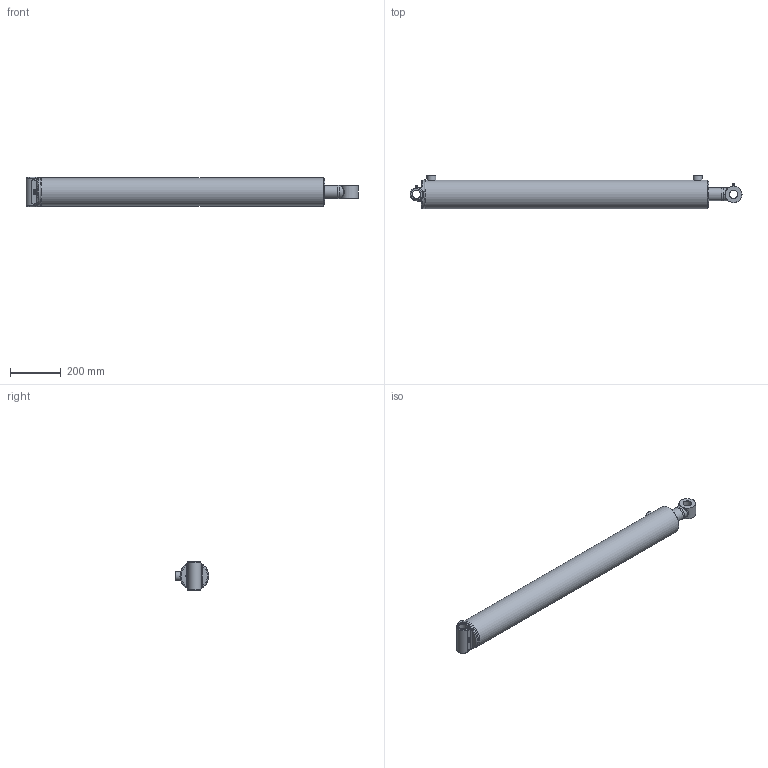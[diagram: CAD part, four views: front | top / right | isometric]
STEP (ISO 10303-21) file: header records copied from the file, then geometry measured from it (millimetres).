
FILE_DESCRIPTION(/* description */ ('Ø4.00 X 40.00 DA'),/* implementation_level */ '2;1');
FILE_NAME(/* name */ 'D:\Temp\1EC677A6EC87F08\j2zp25ge.wp2\Temp\a4hhnowt..stp',/* time_stamp */ '2020-09-18T16:01:23+00:00',/* author */ (''),/* organization */ ('PRINCE MANUFACTURING'),/* preprocessor_version */ 'ST-DEVELOPER v18.1',/* originating_system */ 'Autodesk Inventor 2021',/* authorisation */ '');
FILE_SCHEMA (('AUTOMOTIVE_DESIGN { 1 0 10303 214 3 1 1 }'));
Length unit declared in the file: inch
Products named in the file (21): PC4040020A00-490XTXS; 0619-XTSG00-400; 0519-T-43620; 161900225; 200015706; 06Weld1_C360; 0719-P-125; 220000212; 0819-G-200; 230025106; 230025006; 240000026; 240061342; 240000342; 0211-AXS40-490X; 0111A-JAW4-45937; 210600511; 02Weld_C360; 240020009; 250014200; 270010020
Assembly tree (22 placements, depth 3):
  PC4040020A00-490XTXS
    0619-XTSG00-400
      0519-T-43620
      161900225
      200015706  x2
      06Weld1_C360
    0719-P-125
    220000212
    0819-G-200
    230025106
    230025006
    240000026
    240061342
    240000342
    0211-AXS40-490X
      0111A-JAW4-45937
      210600511
      02Weld_C360
    240020009
    250014200
    270010020  x2
Bounding box: 1302.67 x 132.19 x 114.3 mm (x, y, z)
Volume: 5315814.7 mm3; surface area: 1161824.5 mm2
Topology: 26 solids, 26 shells, 499 faces, 1415 edges, 978 vertices
Faces by surface type: plane 139, bspline 126, torus 90, cylinder 80, cone 62, sphere 2
Full cylindrical faces by diameter (mm): 1.524 x2, 5.359 x2, 6.35 x2, 12.7 x2, 20.269 x2, 29.464 x1, 31.699 x1, 31.826 x1, 32.131 x2, 34.315 x1, 34.925 x2, 35.052 x2, 50.8 x1, 50.876 x2, 51.994 x2, 52.832 x1, 53.188 x1, 57.963 x1, 59.157 x1, 60.35 x1, 61.976 x2, 63.5 x2, 73.152 x1, 82.55 x1, 92.177 x2, 92.913 x2, 96.52 x1, 98.031 x2, 98.273 x4, 100.986 x2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
Entity records: 32925 total; most frequent: CARTESIAN_POINT 19556, ORIENTED_EDGE 2656, DIRECTION 2459, EDGE_CURVE 1328, AXIS2_PLACEMENT_3D 1059, VERTEX_POINT 925, CIRCLE 657, EDGE_LOOP 539
